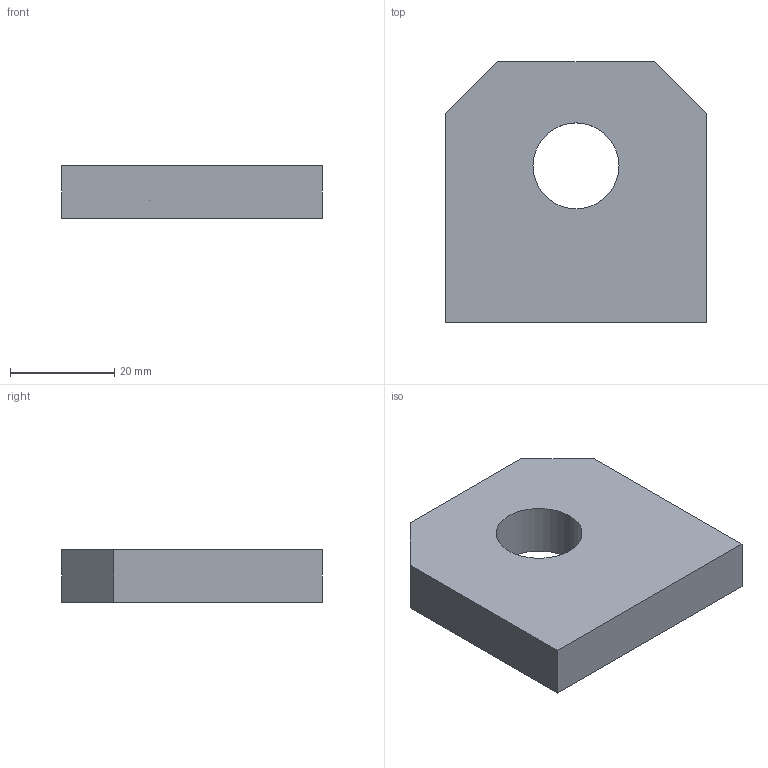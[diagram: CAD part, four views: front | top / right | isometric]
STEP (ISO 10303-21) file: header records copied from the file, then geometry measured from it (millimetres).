
FILE_DESCRIPTION (( 'STEP AP214' ), '1' );
FILE_NAME ('Flanc de chape.STEP', '2016-03-04T08:02:14', ( '' ), ( '' ), 'SwSTEP 2.0', 'SolidWorks 2014', '' );
FILE_SCHEMA (( 'AUTOMOTIVE_DESIGN' ));
Length unit declared in the file: millimetre
Products named in the file (1): Flanc de chape
Bounding box: 50 x 50 x 10 mm (x, y, z)
Volume: 21861.8 mm3; surface area: 6773.6 mm2
Topology: 1 solids, 1 shells, 10 faces, 24 edges, 16 vertices
Faces by surface type: plane 8, cylinder 2
Entity records: 330 total; most frequent: CARTESIAN_POINT 51, DIRECTION 50, ORIENTED_EDGE 48, EDGE_CURVE 24, VECTOR 20, LINE 20, VERTEX_POINT 16, AXIS2_PLACEMENT_3D 15
